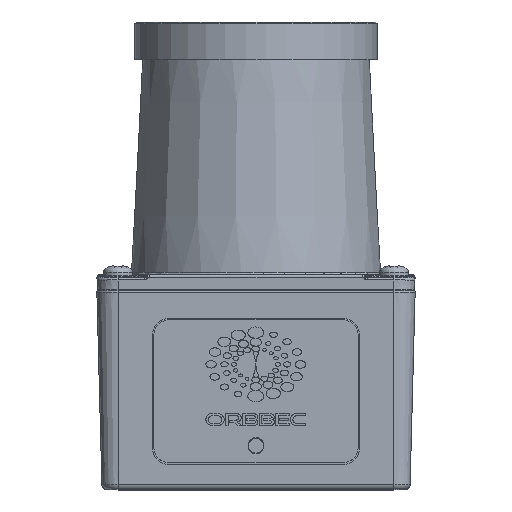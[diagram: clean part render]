
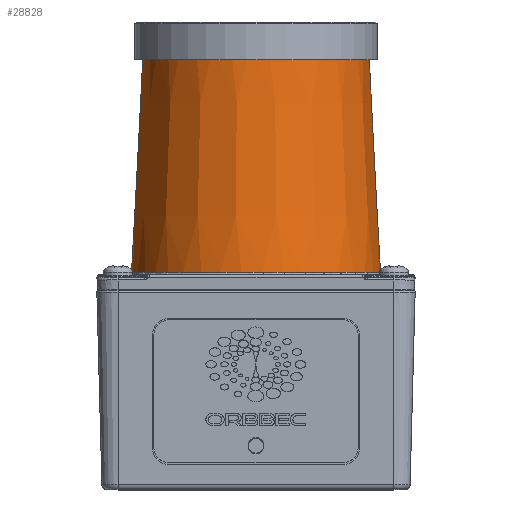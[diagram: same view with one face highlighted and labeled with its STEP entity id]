
A CAD part, top view. The second image highlights one B-rep face of the part: STEP entity #28828.
In plain terms, the highlighted conical face has half-angle 3 degrees and reference radius 22.359 mm.
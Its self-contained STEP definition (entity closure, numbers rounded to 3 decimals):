
#12668=CARTESIAN_POINT('',(14.444,14.684,
-15.505));
#12694=CARTESIAN_POINT('',(12.622,57.262,
-14.087));
#12730=CARTESIAN_POINT('',(0.,57.262,3.));
#12731=DIRECTION('',(0.,-1.,0.));
#12732=DIRECTION('',(0.594,0.,-0.804));
#12733=AXIS2_PLACEMENT_3D('',#12730,#12731,#12732);
#12738=CARTESIAN_POINT('',(0.,57.262,3.));
#12739=DIRECTION('',(0.,-1.,0.));
#12740=DIRECTION('',(1.,0.,0.));
#12741=AXIS2_PLACEMENT_3D('',#12738,#12739,#12740);
#12746=CARTESIAN_POINT('',(0.,57.262,3.));
#12747=DIRECTION('',(0.,-1.,0.));
#12748=DIRECTION('',(0.578,0.,0.816));
#12749=AXIS2_PLACEMENT_3D('',#12746,#12747,#12748);
#12754=CARTESIAN_POINT('',(0.,57.262,3.));
#12755=DIRECTION('',(0.,-1.,0.));
#12756=DIRECTION('',(-1.,0.,0.));
#12757=AXIS2_PLACEMENT_3D('',#12754,#12755,#12756);
#12762=DIRECTION('',(0.043,-0.999,-0.033));
#12763=VECTOR('',#12762,42.641);
#12764=CARTESIAN_POINT('',(12.622,57.262,
-14.087));
#12765=LINE('',#12764,#12763);
#12769=DIRECTION('',(0.043,0.999,0.033));
#12770=VECTOR('',#12769,42.641);
#12771=CARTESIAN_POINT('',(-14.444,14.684,
-15.505));
#12772=LINE('',#12771,#12770);
#12776=CARTESIAN_POINT('',(0.,14.684,3.));
#12777=DIRECTION('',(0.,1.,0.));
#12778=DIRECTION('',(-0.615,0.,-0.788));
#12779=AXIS2_PLACEMENT_3D('',#12776,#12777,#12778);
#12784=CARTESIAN_POINT('',(0.,14.684,3.));
#12785=DIRECTION('',(0.,1.,0.));
#12786=DIRECTION('',(-1.,0.,0.));
#12787=AXIS2_PLACEMENT_3D('',#12784,#12785,#12786);
#12792=CARTESIAN_POINT('',(0.,14.684,3.));
#12793=DIRECTION('',(0.,1.,0.));
#12794=DIRECTION('',(-0.584,0.,0.812));
#12795=AXIS2_PLACEMENT_3D('',#12792,#12793,#12794);
#12800=CARTESIAN_POINT('',(0.,14.684,3.));
#12801=DIRECTION('',(0.,1.,0.));
#12802=DIRECTION('',(1.,0.,0.));
#12803=AXIS2_PLACEMENT_3D('',#12800,#12801,#12802);
#14918=VERTEX_POINT('',#12668);
#14919=VERTEX_POINT('',#12694);
#14920=CARTESIAN_POINT('',(-21.244,57.262,3.));
#14921=CARTESIAN_POINT('',(-12.622,57.262,
-14.087));
#14922=VERTEX_POINT('',#14920);
#14923=VERTEX_POINT('',#14921);
#14924=CARTESIAN_POINT('',(12.27,57.262,20.342));
#14925=VERTEX_POINT('',#14924);
#14926=CARTESIAN_POINT('',(21.244,57.262,3.));
#14927=VERTEX_POINT('',#14926);
#14928=CARTESIAN_POINT('',(23.475,14.684,3.));
#14929=VERTEX_POINT('',#14928);
#14930=CARTESIAN_POINT('',(-13.713,14.684,
22.053));
#14931=VERTEX_POINT('',#14930);
#14932=CARTESIAN_POINT('',(-23.475,14.684,3.));
#14933=VERTEX_POINT('',#14932);
#14934=CARTESIAN_POINT('',(-14.444,14.684,
-15.505));
#14935=VERTEX_POINT('',#14934);
#28806=CARTESIAN_POINT('',(0.,35.973,3.));
#28807=DIRECTION('',(0.,-1.,0.));
#28808=DIRECTION('',(-1.,0.,0.));
#28809=AXIS2_PLACEMENT_3D('',#28806,#28807,#28808);
#28810=CONICAL_SURFACE('',#28809,22.359,3.);
#28811=ORIENTED_EDGE('',*,*,#28792,.F.);
#28812=ORIENTED_EDGE('',*,*,#28790,.F.);
#28813=ORIENTED_EDGE('',*,*,#28788,.F.);
#28814=ORIENTED_EDGE('',*,*,#28786,.F.);
#28815=ORIENTED_EDGE('',*,*,#28725,.T.);
#28817=ORIENTED_EDGE('',*,*,#28816,.F.);
#28819=ORIENTED_EDGE('',*,*,#28818,.F.);
#28821=ORIENTED_EDGE('',*,*,#28820,.F.);
#28823=ORIENTED_EDGE('',*,*,#28822,.F.);
#28825=ORIENTED_EDGE('',*,*,#28824,.T.);
#28826=EDGE_LOOP('',(#28811,#28812,#28813,#28814,#28815,#28817,#28819,#28821,
#28823,#28825));
#28827=FACE_OUTER_BOUND('',#28826,.F.);
#28828=ADVANCED_FACE('',(#28827),#28810,.T.);
#12734=CIRCLE('',#12733,21.244);
#12742=CIRCLE('',#12741,21.244);
#12750=CIRCLE('',#12749,21.244);
#12758=CIRCLE('',#12757,21.244);
#12780=CIRCLE('',#12779,23.475);
#12788=CIRCLE('',#12787,23.475);
#12796=CIRCLE('',#12795,23.475);
#12804=CIRCLE('',#12803,23.475);
#28725=EDGE_CURVE('',#14919,#14918,#12765,.T.);
#28786=EDGE_CURVE('',#14919,#14927,#12734,.T.);
#28788=EDGE_CURVE('',#14927,#14925,#12742,.T.);
#28790=EDGE_CURVE('',#14925,#14922,#12750,.T.);
#28792=EDGE_CURVE('',#14922,#14923,#12758,.T.);
#28816=EDGE_CURVE('',#14929,#14918,#12804,.T.);
#28818=EDGE_CURVE('',#14931,#14929,#12796,.T.);
#28820=EDGE_CURVE('',#14933,#14931,#12788,.T.);
#28822=EDGE_CURVE('',#14935,#14933,#12780,.T.);
#28824=EDGE_CURVE('',#14935,#14923,#12772,.T.);
